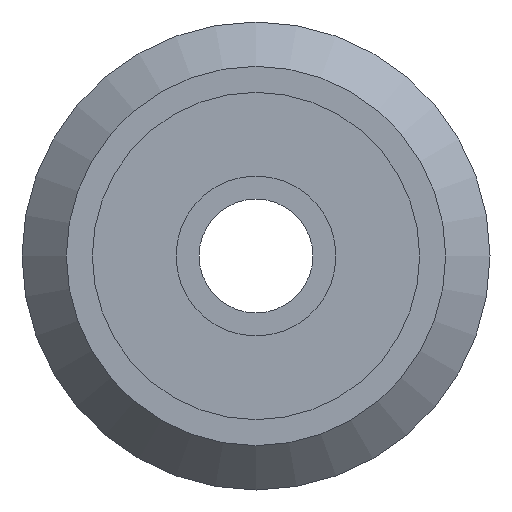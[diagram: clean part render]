
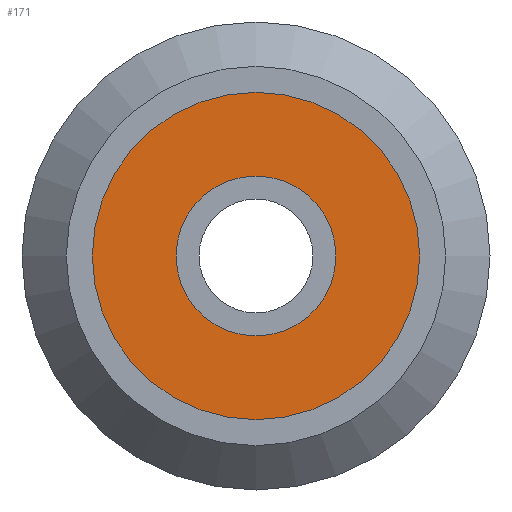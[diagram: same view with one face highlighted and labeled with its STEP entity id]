
A CAD part, front view. The second image highlights one B-rep face of the part: STEP entity #171.
In plain terms, the highlighted planar face has unit normal (0, -1, 0).
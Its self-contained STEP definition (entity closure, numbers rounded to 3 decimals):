
#137=CARTESIAN_POINT('',(0.0,-3.435,3.34));
#138=VERTEX_POINT('',#137);
#139=CARTESIAN_POINT('',(0.0,-3.435,0.0));
#140=DIRECTION('',(0.0,1.0,0.0));
#141=DIRECTION('',(0.0,0.0,1.0));
#142=AXIS2_PLACEMENT_3D('',#139,#140,#141);
#143=CIRCLE('',#142,3.34);
#144=EDGE_CURVE('',#138,#138,#143,.T.);
#152=CARTESIAN_POINT('',(0.0,-3.435,5.09));
#153=DIRECTION('',(0.0,-1.0,0.0));
#154=DIRECTION('',(0.0,0.0,-1.0));
#155=AXIS2_PLACEMENT_3D('',#152,#153,#154);
#156=PLANE('',#155);
#157=CARTESIAN_POINT('',(0.0,-3.435,6.84));
#158=VERTEX_POINT('',#157);
#159=CARTESIAN_POINT('',(0.0,-3.435,0.0));
#160=DIRECTION('',(0.0,1.0,0.0));
#161=DIRECTION('',(0.0,0.0,1.0));
#162=AXIS2_PLACEMENT_3D('',#159,#160,#161);
#163=CIRCLE('',#162,6.84);
#164=EDGE_CURVE('',#158,#158,#163,.T.);
#165=ORIENTED_EDGE('',*,*,#164,.F.);
#166=EDGE_LOOP('',(#165));
#167=FACE_OUTER_BOUND('',#166,.T.);
#168=ORIENTED_EDGE('',*,*,#144,.T.);
#169=EDGE_LOOP('',(#168));
#170=FACE_BOUND('',#169,.T.);
#171=ADVANCED_FACE('',(#167,#170),#156,.T.);
